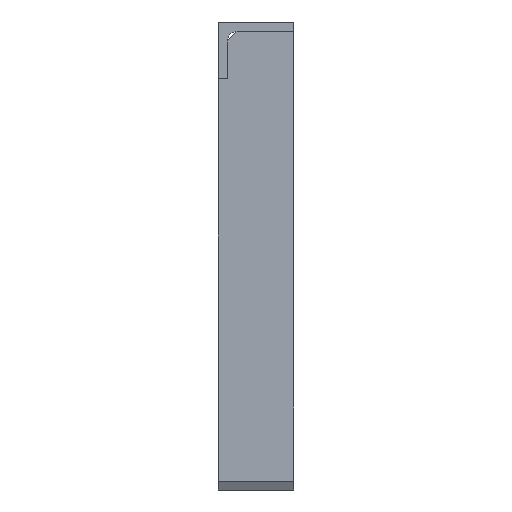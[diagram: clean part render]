
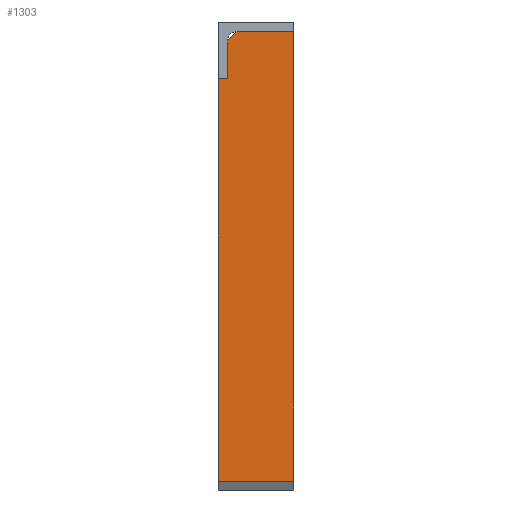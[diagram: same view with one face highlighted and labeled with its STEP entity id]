
A CAD part, left-side view. The second image highlights one B-rep face of the part: STEP entity #1303.
In plain terms, the highlighted planar face has unit normal (-1, 0, 0) as drawn and (0, 0, -1) by its records, which use the part's own axes.
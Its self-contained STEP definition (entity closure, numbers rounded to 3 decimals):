
#17 = VERTEX_POINT ( 'NONE', #1025 ) ;
#43 = VERTEX_POINT ( 'NONE', #417 ) ;
#56 = DIRECTION ( 'NONE',  ( 1., 0., 0. ) ) ;
#80 = VERTEX_POINT ( 'NONE', #1200 ) ;
#153 = ORIENTED_EDGE ( 'NONE', *, *, #832, .T. ) ;
#218 = LINE ( 'NONE', #877, #1812 ) ;
#232 = CARTESIAN_POINT ( 'NONE',  ( 236.906, 40., 0. ) ) ;
#257 = DIRECTION ( 'NONE',  ( -0.707, -0.707, 0. ) ) ;
#280 = PLANE ( 'NONE',  #935 ) ;
#286 = DIRECTION ( 'NONE',  ( 1., 0., 0. ) ) ;
#290 = EDGE_LOOP ( 'NONE', ( #318, #1385, #2086, #153, #1129, #1576, #1830 ) ) ;
#310 = VECTOR ( 'NONE', #812, 1000. ) ;
#311 = DIRECTION ( 'NONE',  ( 0., 0., 1. ) ) ;
#318 = ORIENTED_EDGE ( 'NONE', *, *, #727, .F. ) ;
#406 = DIRECTION ( 'NONE',  ( 0., 1., 0. ) ) ;
#417 = CARTESIAN_POINT ( 'NONE',  ( 0., 30., 0. ) ) ;
#441 = VERTEX_POINT ( 'NONE', #1684 ) ;
#474 = VECTOR ( 'NONE', #406, 1000. ) ;
#535 = VERTEX_POINT ( 'NONE', #232 ) ;
#537 = EDGE_CURVE ( 'NONE', #80, #43, #1866, .T. ) ;
#566 = LINE ( 'NONE', #1875, #474 ) ;
#667 = EDGE_CURVE ( 'NONE', #1663, #535, #566, .T. ) ;
#704 = CARTESIAN_POINT ( 'NONE',  ( 122.5, 152.5, 0. ) ) ;
#727 = EDGE_CURVE ( 'NONE', #535, #797, #795, .T. ) ;
#728 = DIRECTION ( 'NONE',  ( 0., 1., 0. ) ) ;
#795 = LINE ( 'NONE', #1456, #1780 ) ;
#797 = VERTEX_POINT ( 'NONE', #889 ) ;
#812 = DIRECTION ( 'NONE',  ( 0., -1., 0. ) ) ;
#815 = EDGE_CURVE ( 'NONE', #80, #441, #218, .T. ) ;
#832 = EDGE_CURVE ( 'NONE', #17, #43, #1347, .T. ) ;
#877 = CARTESIAN_POINT ( 'NONE',  ( 275., 35., 0. ) ) ;
#889 = CARTESIAN_POINT ( 'NONE',  ( 25., 40., 0. ) ) ;
#903 = CARTESIAN_POINT ( 'NONE',  ( 0., 0., 0. ) ) ;
#935 = AXIS2_PLACEMENT_3D ( 'NONE', #2079, #311, #286 ) ;
#977 = CARTESIAN_POINT ( 'NONE',  ( 236.906, 0., 0. ) ) ;
#981 = FACE_OUTER_BOUND ( 'NONE', #290, .T. ) ;
#1025 = CARTESIAN_POINT ( 'NONE',  ( 0., 0., 0. ) ) ;
#1089 = EDGE_CURVE ( 'NONE', #1663, #17, #1530, .T. ) ;
#1129 = ORIENTED_EDGE ( 'NONE', *, *, #537, .F. ) ;
#1149 = CARTESIAN_POINT ( 'NONE',  ( 25., -154.737, 0. ) ) ;
#1184 = CARTESIAN_POINT ( 'NONE',  ( 236.906, 0., 0. ) ) ;
#1200 = CARTESIAN_POINT ( 'NONE',  ( 5., 35., 0. ) ) ;
#1240 = VECTOR ( 'NONE', #1329, 1000. ) ;
#1282 = LINE ( 'NONE', #1149, #310 ) ;
#1303 = ADVANCED_FACE ( 'NONE', ( #981 ), #280, .F. ) ;
#1329 = DIRECTION ( 'NONE',  ( -1., 0., 0. ) ) ;
#1347 = LINE ( 'NONE', #903, #1360 ) ;
#1360 = VECTOR ( 'NONE', #728, 1000. ) ;
#1385 = ORIENTED_EDGE ( 'NONE', *, *, #667, .F. ) ;
#1456 = CARTESIAN_POINT ( 'NONE',  ( 236.906, 40., 0. ) ) ;
#1530 = LINE ( 'NONE', #1184, #1240 ) ;
#1576 = ORIENTED_EDGE ( 'NONE', *, *, #815, .T. ) ;
#1663 = VERTEX_POINT ( 'NONE', #977 ) ;
#1684 = CARTESIAN_POINT ( 'NONE',  ( 25., 35., 0. ) ) ;
#1728 = EDGE_CURVE ( 'NONE', #797, #441, #1282, .T. ) ;
#1780 = VECTOR ( 'NONE', #2098, 1000. ) ;
#1812 = VECTOR ( 'NONE', #56, 1000. ) ;
#1830 = ORIENTED_EDGE ( 'NONE', *, *, #1728, .F. ) ;
#1866 = LINE ( 'NONE', #704, #2050 ) ;
#1875 = CARTESIAN_POINT ( 'NONE',  ( 236.906, 0., 0. ) ) ;
#2050 = VECTOR ( 'NONE', #257, 1000. ) ;
#2079 = CARTESIAN_POINT ( 'NONE',  ( 236.906, 0., 0. ) ) ;
#2086 = ORIENTED_EDGE ( 'NONE', *, *, #1089, .T. ) ;
#2098 = DIRECTION ( 'NONE',  ( -1., 0., 0. ) ) ;
